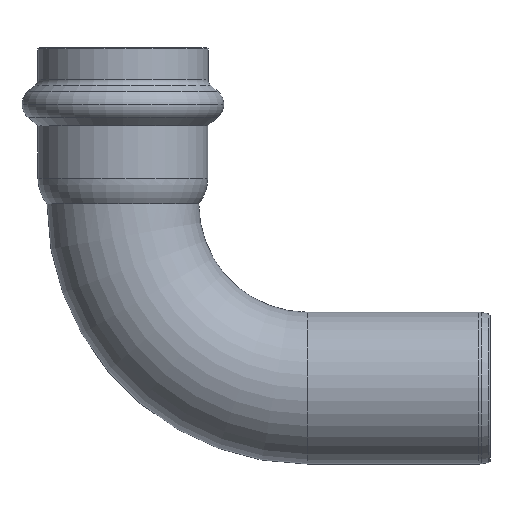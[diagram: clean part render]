
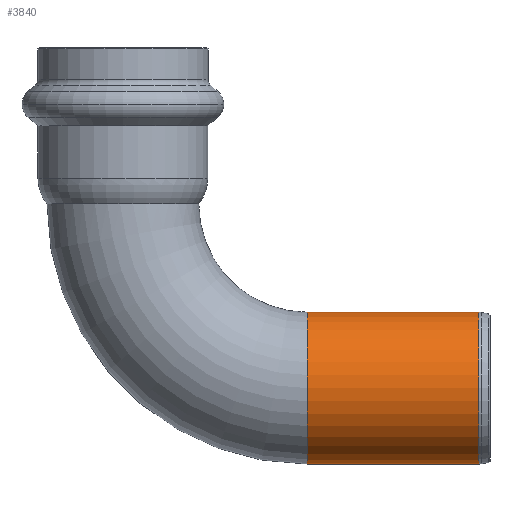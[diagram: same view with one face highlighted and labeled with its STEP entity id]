
A CAD part, front view. The second image highlights one B-rep face of the part: STEP entity #3840.
In plain terms, the highlighted cylindrical face has radius 14 mm (diameter 28 mm), a partial arc.
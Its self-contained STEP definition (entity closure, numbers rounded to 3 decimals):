
#110=CARTESIAN_POINT('',(-370.306,21.373,
0.));
#120=VERTEX_POINT('',#110);
#170=CARTESIAN_POINT('',(-370.306,7.373,
0.));
#180=DIRECTION('',(-1.,0.,0.));
#190=DIRECTION('',(0.,-1.,0.));
#200=AXIS2_PLACEMENT_3D('',#170,#180,#190);
#210=CIRCLE('',#200,14.);
#220=CARTESIAN_POINT('',(-370.306,7.373,14.));
#230=VERTEX_POINT('',#220);
#240=EDGE_CURVE('',#230,#120,#210,.T.);
#260=CARTESIAN_POINT('',(-370.306,-6.627,
0.));
#270=VERTEX_POINT('',#260);
#280=EDGE_CURVE('',#270,#230,#210,.T.);
#3520=CARTESIAN_POINT('',(-359.233,7.373,
0.));
#3530=DIRECTION('',(-1.,0.,0.));
#3540=DIRECTION('',(0.,-1.,0.));
#3550=AXIS2_PLACEMENT_3D('',#3520,#3530,#3540);
#3560=CYLINDRICAL_SURFACE('',#3550,14.);
#3570=CARTESIAN_POINT('',(-359.233,-6.627,
0.));
#3580=DIRECTION('',(-1.,0.,0.));
#3590=VECTOR('',#3580,1.);
#3600=LINE('',#3570,#3590);
#3610=CARTESIAN_POINT('',(-338.722,-6.627,
0.));
#3620=VERTEX_POINT('',#3610);
#3630=EDGE_CURVE('',#3620,#270,#3600,.T.);
#3640=ORIENTED_EDGE('',*,*,#3630,.F.);
#3650=ORIENTED_EDGE('',*,*,#280,.F.);
#3660=ORIENTED_EDGE('',*,*,#240,.F.);
#3670=CARTESIAN_POINT('',(-359.233,21.373,
0.));
#3680=DIRECTION('',(-1.,0.,0.));
#3690=VECTOR('',#3680,1.);
#3700=LINE('',#3670,#3690);
#3710=CARTESIAN_POINT('',(-338.722,21.373,
0.));
#3720=VERTEX_POINT('',#3710);
#3730=EDGE_CURVE('',#3720,#120,#3700,.T.);
#3740=ORIENTED_EDGE('',*,*,#3730,.T.);
#3750=CARTESIAN_POINT('',(-338.722,7.373,
0.));
#3760=DIRECTION('',(-1.,0.,0.));
#3770=DIRECTION('',(0.,-1.,0.));
#3780=AXIS2_PLACEMENT_3D('',#3750,#3760,#3770);
#3790=CIRCLE('',#3780,14.);
#3800=EDGE_CURVE('',#3620,#3720,#3790,.T.);
#3810=ORIENTED_EDGE('',*,*,#3800,.T.);
#3820=EDGE_LOOP('',(#3810,#3740,#3660,#3650,#3640));
#3830=FACE_OUTER_BOUND('',#3820,.T.);
#3840=ADVANCED_FACE('',(#3830),#3560,.T.);
